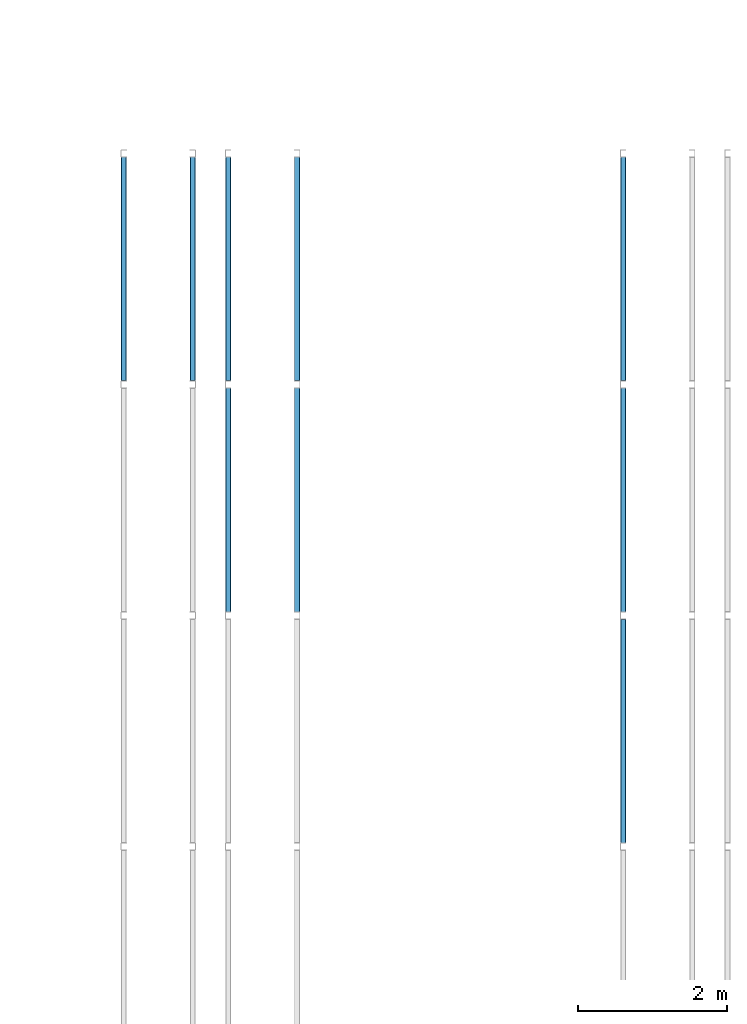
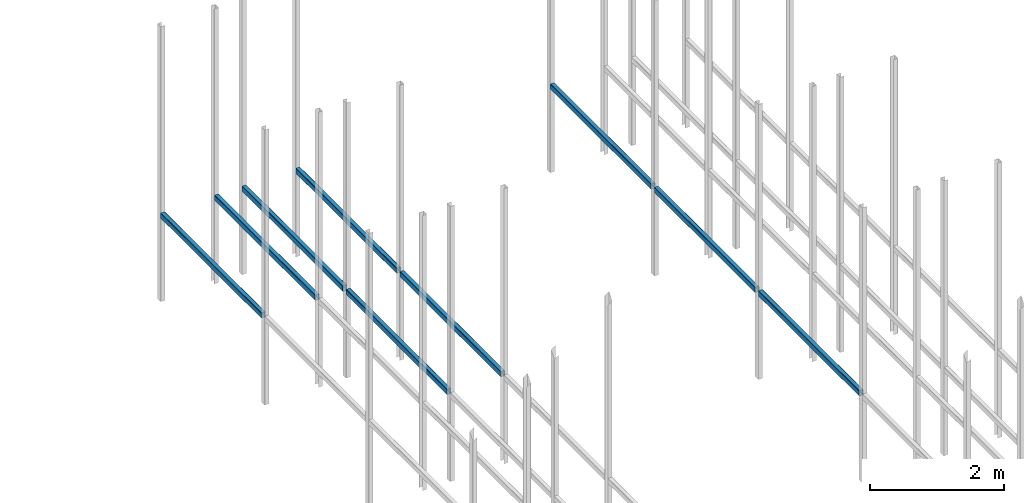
# One storey, part 189 of 302: 9 beams.
"""IFC2X3 building model written with IfcOpenShell, lengths in metres."""

from ifc_helpers import new_model, entity, si_unit, converted_unit, derived_unit, direction, frame, frame_2d, origin, place, context, subcontext, project, spatial, polyline, circle_curve, parameter, trimmed, segment, composite_curve, outline, extrude, material, type_object, element, save


model = new_model("IFC2X3")

# Units and contexts
model_context = context("Model", 3, precision=1e-05, world=origin(), true_north=direction((6.12303176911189e-17, 1.0)))
body_context = subcontext(model_context, "Body", "Model", "MODEL_VIEW")
ifc_project = project(units=[si_unit("LENGTHUNIT", "METRE"), si_unit("AREAUNIT", "SQUARE_METRE"), si_unit("VOLUMEUNIT", "CUBIC_METRE"), converted_unit("PLANEANGLEUNIT", "DEGREE", entity("IfcRatioMeasure", 0.0174532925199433), si_unit("PLANEANGLEUNIT", "RADIAN"), dimensions=[0, 0, 0, 0, 0, 0, 0]), si_unit("MASSUNIT", "GRAM", prefix="KILO"), derived_unit("MASSDENSITYUNIT", [(si_unit("MASSUNIT", "GRAM", prefix="KILO"), 1), (si_unit("LENGTHUNIT", "METRE"), -3)]), derived_unit("MOMENTOFINERTIAUNIT", [(si_unit("LENGTHUNIT", "METRE"), 4)]), si_unit("TIMEUNIT", "SECOND"), si_unit("FREQUENCYUNIT", "HERTZ"), si_unit("THERMODYNAMICTEMPERATUREUNIT", "DEGREE_CELSIUS"), derived_unit("THERMALTRANSMITTANCEUNIT", [(si_unit("MASSUNIT", "GRAM", prefix="KILO"), 1), (si_unit("THERMODYNAMICTEMPERATUREUNIT", "KELVIN"), -1), (si_unit("TIMEUNIT", "SECOND"), -3)]), derived_unit("VOLUMETRICFLOWRATEUNIT", [(si_unit("LENGTHUNIT", "METRE"), 3), (si_unit("TIMEUNIT", "SECOND"), -1)]), si_unit("ELECTRICCURRENTUNIT", "AMPERE"), si_unit("ELECTRICVOLTAGEUNIT", "VOLT"), si_unit("POWERUNIT", "WATT"), si_unit("FORCEUNIT", "NEWTON", prefix="KILO"), si_unit("ILLUMINANCEUNIT", "LUX"), si_unit("LUMINOUSFLUXUNIT", "LUMEN"), si_unit("LUMINOUSINTENSITYUNIT", "CANDELA"), derived_unit("USERDEFINED", [(si_unit("MASSUNIT", "GRAM", prefix="KILO"), -1), (si_unit("LENGTHUNIT", "METRE"), -2), (si_unit("TIMEUNIT", "SECOND"), 3), (si_unit("LUMINOUSFLUXUNIT", "LUMEN"), 1)]), derived_unit("LINEARVELOCITYUNIT", [(si_unit("LENGTHUNIT", "METRE"), 1), (si_unit("TIMEUNIT", "SECOND"), -1)]), si_unit("PRESSUREUNIT", "PASCAL"), derived_unit("USERDEFINED", [(si_unit("LENGTHUNIT", "METRE"), -2), (si_unit("MASSUNIT", "GRAM", prefix="KILO"), 1), (si_unit("TIMEUNIT", "SECOND"), -2)]), derived_unit("LINEARFORCEUNIT", [(si_unit("MASSUNIT", "GRAM", prefix="KILO"), 1), (si_unit("LENGTHUNIT", "METRE"), 1), (si_unit("TIMEUNIT", "SECOND"), -2), (si_unit("LENGTHUNIT", "METRE"), -1)]), derived_unit("PLANARFORCEUNIT", [(si_unit("MASSUNIT", "GRAM", prefix="KILO"), 1), (si_unit("LENGTHUNIT", "METRE"), 1), (si_unit("TIMEUNIT", "SECOND"), -2), (si_unit("LENGTHUNIT", "METRE"), -2)])], contexts=[model_context])

# Site, building, storey
site_placement = place(None, origin())
site = spatial("IfcSite", under=ifc_project, at=site_placement, Name="Default", CompositionType="ELEMENT")
building_placement = place(site_placement, origin())
building = spatial("IfcBuilding", under=site, at=building_placement, CompositionType="ELEMENT")
storey_placement = place(building_placement, frame((0.0, 0.0, -1.3)))
storey = spatial("IfcBuildingStorey", under=building, at=storey_placement, Name="00_EG", CompositionType="ELEMENT", Elevation=-1.3)

# Beams
ifc_material = material(Name="Metall - Baustahl S235 blau")
beam_type = type_object("IfcBeamType", Name="RHS Träger (EN 10219-2):RHS 100 x 75 x 5", PredefinedType="NOTDEFINED")
beam_1_placement = place(storey_placement, frame((-157.718311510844, 57.6480889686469, 2.885), z_axis=(0.0, 0.0, 1.0), x_axis=(0.0, 1.0, 0.0)))
element("IfcBeam", 1, at=beam_1_placement, inside=storey, type_object=beam_type, material=ifc_material, Name="RHS Träger (EN 10219-2):RHS 100 x 75 x 5", ObjectType="RHS Träger (EN 10219-2):RHS 100 x 75 x 5", context=body_context, shape_type="SweptSolid", body=[
    extrude(outline(composite_curve([segment(trimmed(circle_curve(frame_2d((-0.0274999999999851, -0.0400000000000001), x_axis=(1.0, 0.0)), 0.01), [parameter(180.0)], [parameter(270.0)], True, "PARAMETER"), True, "CONTINUOUS"), segment(polyline([(-0.0274999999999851, -0.05), (0.0274999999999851, -0.05)]), True, "CONTINUOUS"), segment(trimmed(circle_curve(frame_2d((0.0274999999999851, -0.0400000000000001), x_axis=(1.0, 0.0)), 0.01), [parameter(270.0)], [parameter(5.08888749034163e-14)], True, "PARAMETER"), True, "CONTINUOUS"), segment(polyline([(0.0375000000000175, -0.0399999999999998), (0.0375000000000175, 0.0400000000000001)]), True, "CONTINUOUS"), segment(trimmed(circle_curve(frame_2d((0.0274999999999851, 0.0399999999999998), x_axis=(1.0, 0.0)), 0.01), [parameter(360.0)], [parameter(89.9999999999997)], True, "PARAMETER"), True, "CONTINUOUS"), segment(polyline([(0.0274999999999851, 0.05), (-0.0274999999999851, 0.05)]), True, "CONTINUOUS"), segment(trimmed(circle_curve(frame_2d((-0.0274999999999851, 0.0399999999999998), x_axis=(1.0, 0.0)), 0.01), [parameter(90.0000000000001)], [parameter(180.0)], True, "PARAMETER"), True, "CONTINUOUS"), segment(polyline([(-0.0374999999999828, 0.0400000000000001), (-0.0374999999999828, -0.0399999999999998)]), True, "CONTINUOUS")], self_intersect=False), holes=[composite_curve([segment(polyline([(0.0274999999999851, -0.0450000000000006), (-0.0274999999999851, -0.0450000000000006)]), True, "CONTINUOUS"), segment(trimmed(circle_curve(frame_2d((-0.0274999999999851, -0.0400000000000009), x_axis=(1.0, 0.0)), 0.005), [parameter(180.0)], [parameter(270.0)], True, "PARAMETER"), False, "CONTINUOUS"), segment(polyline([(-0.0325000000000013, -0.0400000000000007), (-0.0325000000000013, 0.0399999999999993)]), True, "CONTINUOUS"), segment(trimmed(circle_curve(frame_2d((-0.0274999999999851, 0.039999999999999), x_axis=(1.0, 0.0)), 0.005), [parameter(90.0000000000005)], [parameter(180.0)], True, "PARAMETER"), False, "CONTINUOUS"), segment(polyline([(-0.0274999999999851, 0.0449999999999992), (0.0274999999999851, 0.0449999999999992)]), True, "CONTINUOUS"), segment(trimmed(circle_curve(frame_2d((0.0274999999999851, 0.039999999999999), x_axis=(1.0, 0.0)), 0.005), [parameter(0.0)], [parameter(90.0000000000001)], True, "PARAMETER"), False, "CONTINUOUS"), segment(polyline([(0.0325000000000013, 0.0399999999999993), (0.0325000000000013, -0.0400000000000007)]), True, "CONTINUOUS"), segment(trimmed(circle_curve(frame_2d((0.0274999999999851, -0.0400000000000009), x_axis=(1.0, 0.0)), 0.005), [parameter(270.0)], [parameter(4.07110999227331e-13)], True, "PARAMETER"), False, "CONTINUOUS")], self_intersect=False)]), frame((0.000100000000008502, 0.0375000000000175, -0.0500000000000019), z_axis=(1.0, 0.0, 0.0), x_axis=(0.0, -1.0, 0.0)), (0.0, 0.0, 1.0), 2.99979999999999),
])
beam_2_placement = place(storey_placement, frame((-156.868311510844, 57.6480889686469, 2.885), z_axis=(0.0, 0.0, 1.0), x_axis=(0.0, 1.0, 0.0)))
element("IfcBeam", 2, at=beam_2_placement, inside=storey, type_object=beam_type, material=ifc_material, Name="RHS Träger (EN 10219-2):RHS 100 x 75 x 5", ObjectType="RHS Träger (EN 10219-2):RHS 100 x 75 x 5", context=body_context, shape_type="SweptSolid", body=[
    extrude(outline(composite_curve([segment(polyline([(-0.0399999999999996, -0.0374999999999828), (0.0400000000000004, -0.0374999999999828)]), True, "CONTINUOUS"), segment(trimmed(circle_curve(frame_2d((0.0400000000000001, -0.0274999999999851), x_axis=(0.0, 1.0)), 0.01), [parameter(180.0)], [parameter(270.0)], True, "PARAMETER"), True, "CONTINUOUS"), segment(polyline([(0.0500000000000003, -0.0274999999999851), (0.0500000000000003, 0.0274999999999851)]), True, "CONTINUOUS"), segment(trimmed(circle_curve(frame_2d((0.0400000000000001, 0.0274999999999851), x_axis=(0.0, 1.0)), 0.01), [parameter(270.0)], [parameter(4.07110999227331e-13)], True, "PARAMETER"), True, "CONTINUOUS"), segment(polyline([(0.0400000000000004, 0.0375000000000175), (-0.0399999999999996, 0.0375000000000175)]), True, "CONTINUOUS"), segment(trimmed(circle_curve(frame_2d((-0.0399999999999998, 0.0274999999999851), x_axis=(0.0, 1.0)), 0.01), [parameter(360.0)], [parameter(90.0000000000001)], True, "PARAMETER"), True, "CONTINUOUS"), segment(polyline([(-0.0499999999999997, 0.0274999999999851), (-0.0499999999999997, -0.0274999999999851)]), True, "CONTINUOUS"), segment(trimmed(circle_curve(frame_2d((-0.0399999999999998, -0.0274999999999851), x_axis=(0.0, 1.0)), 0.01), [parameter(90.0000000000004)], [parameter(180.0)], True, "PARAMETER"), True, "CONTINUOUS")], self_intersect=False), holes=[composite_curve([segment(trimmed(circle_curve(frame_2d((-0.0400000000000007, 0.0274999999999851), x_axis=(0.0, 1.0)), 0.005), [parameter(360.0)], [parameter(89.9999999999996)], True, "PARAMETER"), False, "CONTINUOUS"), segment(polyline([(-0.0400000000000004, 0.0325000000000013), (0.0399999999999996, 0.0325000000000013)]), True, "CONTINUOUS"), segment(trimmed(circle_curve(frame_2d((0.0399999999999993, 0.0274999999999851), x_axis=(0.0, 1.0)), 0.005), [parameter(270.0)], [parameter(0.0)], True, "PARAMETER"), False, "CONTINUOUS"), segment(polyline([(0.0449999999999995, 0.0274999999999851), (0.0449999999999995, -0.0274999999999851)]), True, "CONTINUOUS"), segment(trimmed(circle_curve(frame_2d((0.0399999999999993, -0.0274999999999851), x_axis=(0.0, 1.0)), 0.005), [parameter(180.0)], [parameter(269.999999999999)], True, "PARAMETER"), False, "CONTINUOUS"), segment(polyline([(0.0399999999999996, -0.0325000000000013), (-0.0400000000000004, -0.0325000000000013)]), True, "CONTINUOUS"), segment(trimmed(circle_curve(frame_2d((-0.0400000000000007, -0.0274999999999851), x_axis=(0.0, 1.0)), 0.005), [parameter(90.0000000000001)], [parameter(180.0)], True, "PARAMETER"), False, "CONTINUOUS"), segment(polyline([(-0.0450000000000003, -0.0274999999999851), (-0.0450000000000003, 0.0274999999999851)]), True, "CONTINUOUS")], self_intersect=False)]), frame((0.000100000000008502, -0.0375000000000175, -0.0500000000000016), z_axis=(1.0, 0.0, 0.0), x_axis=(0.0, 0.0, -1.0)), (0.0, 0.0, 1.0), 2.99979999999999),
])
beam_3_placement = place(storey_placement, frame((-159.118311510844, 60.7480889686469, 2.885), z_axis=(0.0, 0.0, 1.0), x_axis=(0.0, 1.0, 0.0)))
element("IfcBeam", 3, at=beam_3_placement, inside=storey, type_object=beam_type, material=ifc_material, Name="RHS Träger (EN 10219-2):RHS 100 x 75 x 5", ObjectType="RHS Träger (EN 10219-2):RHS 100 x 75 x 5", context=body_context, shape_type="SweptSolid", body=[
    extrude(outline(composite_curve([segment(trimmed(circle_curve(frame_2d((-0.0274999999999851, -0.0400000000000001), x_axis=(1.0, 0.0)), 0.01), [parameter(180.0)], [parameter(270.0)], True, "PARAMETER"), True, "CONTINUOUS"), segment(polyline([(-0.0274999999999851, -0.05), (0.0274999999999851, -0.05)]), True, "CONTINUOUS"), segment(trimmed(circle_curve(frame_2d((0.0274999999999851, -0.0400000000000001), x_axis=(1.0, 0.0)), 0.01), [parameter(270.0)], [parameter(5.08888749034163e-14)], True, "PARAMETER"), True, "CONTINUOUS"), segment(polyline([(0.0375000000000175, -0.0399999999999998), (0.0375000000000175, 0.0400000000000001)]), True, "CONTINUOUS"), segment(trimmed(circle_curve(frame_2d((0.0274999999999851, 0.0399999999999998), x_axis=(1.0, 0.0)), 0.01), [parameter(360.0)], [parameter(89.9999999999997)], True, "PARAMETER"), True, "CONTINUOUS"), segment(polyline([(0.0274999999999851, 0.05), (-0.0274999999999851, 0.05)]), True, "CONTINUOUS"), segment(trimmed(circle_curve(frame_2d((-0.0274999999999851, 0.0399999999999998), x_axis=(1.0, 0.0)), 0.01), [parameter(90.0000000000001)], [parameter(180.0)], True, "PARAMETER"), True, "CONTINUOUS"), segment(polyline([(-0.0374999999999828, 0.0400000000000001), (-0.0374999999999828, -0.0399999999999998)]), True, "CONTINUOUS")], self_intersect=False), holes=[composite_curve([segment(polyline([(0.0274999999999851, -0.0450000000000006), (-0.0274999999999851, -0.0450000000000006)]), True, "CONTINUOUS"), segment(trimmed(circle_curve(frame_2d((-0.0274999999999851, -0.0400000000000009), x_axis=(1.0, 0.0)), 0.005), [parameter(180.0)], [parameter(270.0)], True, "PARAMETER"), False, "CONTINUOUS"), segment(polyline([(-0.0325000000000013, -0.0400000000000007), (-0.0325000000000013, 0.0399999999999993)]), True, "CONTINUOUS"), segment(trimmed(circle_curve(frame_2d((-0.0274999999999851, 0.039999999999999), x_axis=(1.0, 0.0)), 0.005), [parameter(90.0000000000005)], [parameter(180.0)], True, "PARAMETER"), False, "CONTINUOUS"), segment(polyline([(-0.0274999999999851, 0.0449999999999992), (0.0274999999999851, 0.0449999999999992)]), True, "CONTINUOUS"), segment(trimmed(circle_curve(frame_2d((0.0274999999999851, 0.039999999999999), x_axis=(1.0, 0.0)), 0.005), [parameter(0.0)], [parameter(90.0000000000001)], True, "PARAMETER"), False, "CONTINUOUS"), segment(polyline([(0.0325000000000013, 0.0399999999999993), (0.0325000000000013, -0.0400000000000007)]), True, "CONTINUOUS"), segment(trimmed(circle_curve(frame_2d((0.0274999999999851, -0.0400000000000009), x_axis=(1.0, 0.0)), 0.005), [parameter(270.0)], [parameter(4.07110999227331e-13)], True, "PARAMETER"), False, "CONTINUOUS")], self_intersect=False)]), frame((0.000100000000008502, 0.0375000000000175, -0.0500000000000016), z_axis=(1.0, 0.0, 0.0), x_axis=(0.0, -1.0, 0.0)), (0.0, 0.0, 1.0), 2.99979999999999),
])
beam_4_placement = place(storey_placement, frame((-158.268311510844, 60.7480889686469, 2.885), z_axis=(0.0, 0.0, 1.0), x_axis=(0.0, 1.0, 0.0)))
element("IfcBeam", 4, at=beam_4_placement, inside=storey, type_object=beam_type, material=ifc_material, Name="RHS Träger (EN 10219-2):RHS 100 x 75 x 5", ObjectType="RHS Träger (EN 10219-2):RHS 100 x 75 x 5", context=body_context, shape_type="SweptSolid", body=[
    extrude(outline(composite_curve([segment(polyline([(-0.0399999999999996, -0.0375000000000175), (0.0400000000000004, -0.0375000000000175)]), True, "CONTINUOUS"), segment(trimmed(circle_curve(frame_2d((0.0400000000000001, -0.0275000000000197), x_axis=(0.0, 1.0)), 0.01), [parameter(180.0)], [parameter(270.0)], True, "PARAMETER"), True, "CONTINUOUS"), segment(polyline([(0.0500000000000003, -0.0275000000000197), (0.0500000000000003, 0.0274999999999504)]), True, "CONTINUOUS"), segment(trimmed(circle_curve(frame_2d((0.0400000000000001, 0.0274999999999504), x_axis=(0.0, 1.0)), 0.01), [parameter(270.0)], [parameter(4.07110999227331e-13)], True, "PARAMETER"), True, "CONTINUOUS"), segment(polyline([(0.0400000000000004, 0.0374999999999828), (-0.0399999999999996, 0.0374999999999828)]), True, "CONTINUOUS"), segment(trimmed(circle_curve(frame_2d((-0.0399999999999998, 0.0274999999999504), x_axis=(0.0, 1.0)), 0.01), [parameter(360.0)], [parameter(90.0000000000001)], True, "PARAMETER"), True, "CONTINUOUS"), segment(polyline([(-0.0499999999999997, 0.0274999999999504), (-0.0499999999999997, -0.0275000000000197)]), True, "CONTINUOUS"), segment(trimmed(circle_curve(frame_2d((-0.0399999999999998, -0.0275000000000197), x_axis=(0.0, 1.0)), 0.01), [parameter(90.0000000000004)], [parameter(180.0)], True, "PARAMETER"), True, "CONTINUOUS")], self_intersect=False), holes=[composite_curve([segment(trimmed(circle_curve(frame_2d((-0.0400000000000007, 0.0274999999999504), x_axis=(0.0, 1.0)), 0.005), [parameter(360.0)], [parameter(89.9999999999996)], True, "PARAMETER"), False, "CONTINUOUS"), segment(polyline([(-0.0400000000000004, 0.0324999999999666), (0.0399999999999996, 0.0324999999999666)]), True, "CONTINUOUS"), segment(trimmed(circle_curve(frame_2d((0.0399999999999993, 0.0274999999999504), x_axis=(0.0, 1.0)), 0.005), [parameter(270.0)], [parameter(0.0)], True, "PARAMETER"), False, "CONTINUOUS"), segment(polyline([(0.0449999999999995, 0.0274999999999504), (0.0449999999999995, -0.0275000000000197)]), True, "CONTINUOUS"), segment(trimmed(circle_curve(frame_2d((0.0399999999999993, -0.0275000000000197), x_axis=(0.0, 1.0)), 0.005), [parameter(180.0)], [parameter(269.999999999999)], True, "PARAMETER"), False, "CONTINUOUS"), segment(polyline([(0.0399999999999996, -0.0325000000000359), (-0.0400000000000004, -0.0325000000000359)]), True, "CONTINUOUS"), segment(trimmed(circle_curve(frame_2d((-0.0400000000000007, -0.0275000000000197), x_axis=(0.0, 1.0)), 0.005), [parameter(90.0000000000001)], [parameter(180.0)], True, "PARAMETER"), False, "CONTINUOUS"), segment(polyline([(-0.0450000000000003, -0.0275000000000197), (-0.0450000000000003, 0.0274999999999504)]), True, "CONTINUOUS")], self_intersect=False)]), frame((0.000100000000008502, -0.0374999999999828, -0.0500000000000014), z_axis=(1.0, 0.0, 0.0), x_axis=(0.0, 0.0, -1.0)), (0.0, 0.0, 1.0), 2.99979999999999),
])
beam_5_placement = place(storey_placement, frame((-157.718311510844, 60.7480889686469, 2.885), z_axis=(0.0, 0.0, 1.0), x_axis=(0.0, 1.0, 0.0)))
element("IfcBeam", 5, at=beam_5_placement, inside=storey, type_object=beam_type, material=ifc_material, Name="RHS Träger (EN 10219-2):RHS 100 x 75 x 5", ObjectType="RHS Träger (EN 10219-2):RHS 100 x 75 x 5", context=body_context, shape_type="SweptSolid", body=[
    extrude(outline(composite_curve([segment(trimmed(circle_curve(frame_2d((-0.0274999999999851, -0.0400000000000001), x_axis=(1.0, 0.0)), 0.01), [parameter(180.0)], [parameter(270.0)], True, "PARAMETER"), True, "CONTINUOUS"), segment(polyline([(-0.0274999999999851, -0.05), (0.0274999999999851, -0.05)]), True, "CONTINUOUS"), segment(trimmed(circle_curve(frame_2d((0.0274999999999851, -0.0400000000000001), x_axis=(1.0, 0.0)), 0.01), [parameter(270.0)], [parameter(5.08888749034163e-14)], True, "PARAMETER"), True, "CONTINUOUS"), segment(polyline([(0.0375000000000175, -0.0399999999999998), (0.0375000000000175, 0.0400000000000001)]), True, "CONTINUOUS"), segment(trimmed(circle_curve(frame_2d((0.0274999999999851, 0.0399999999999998), x_axis=(1.0, 0.0)), 0.01), [parameter(360.0)], [parameter(89.9999999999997)], True, "PARAMETER"), True, "CONTINUOUS"), segment(polyline([(0.0274999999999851, 0.05), (-0.0274999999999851, 0.05)]), True, "CONTINUOUS"), segment(trimmed(circle_curve(frame_2d((-0.0274999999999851, 0.0399999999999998), x_axis=(1.0, 0.0)), 0.01), [parameter(90.0000000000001)], [parameter(180.0)], True, "PARAMETER"), True, "CONTINUOUS"), segment(polyline([(-0.0374999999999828, 0.0400000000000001), (-0.0374999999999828, -0.0399999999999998)]), True, "CONTINUOUS")], self_intersect=False), holes=[composite_curve([segment(polyline([(0.0274999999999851, -0.0450000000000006), (-0.0274999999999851, -0.0450000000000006)]), True, "CONTINUOUS"), segment(trimmed(circle_curve(frame_2d((-0.0274999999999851, -0.0400000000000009), x_axis=(1.0, 0.0)), 0.005), [parameter(180.0)], [parameter(270.0)], True, "PARAMETER"), False, "CONTINUOUS"), segment(polyline([(-0.0325000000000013, -0.0400000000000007), (-0.0325000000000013, 0.0399999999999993)]), True, "CONTINUOUS"), segment(trimmed(circle_curve(frame_2d((-0.0274999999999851, 0.039999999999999), x_axis=(1.0, 0.0)), 0.005), [parameter(90.0000000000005)], [parameter(180.0)], True, "PARAMETER"), False, "CONTINUOUS"), segment(polyline([(-0.0274999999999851, 0.0449999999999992), (0.0274999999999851, 0.0449999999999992)]), True, "CONTINUOUS"), segment(trimmed(circle_curve(frame_2d((0.0274999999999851, 0.039999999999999), x_axis=(1.0, 0.0)), 0.005), [parameter(0.0)], [parameter(90.0000000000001)], True, "PARAMETER"), False, "CONTINUOUS"), segment(polyline([(0.0325000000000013, 0.0399999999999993), (0.0325000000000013, -0.0400000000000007)]), True, "CONTINUOUS"), segment(trimmed(circle_curve(frame_2d((0.0274999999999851, -0.0400000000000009), x_axis=(1.0, 0.0)), 0.005), [parameter(270.0)], [parameter(4.07110999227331e-13)], True, "PARAMETER"), False, "CONTINUOUS")], self_intersect=False)]), frame((0.000100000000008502, 0.0375000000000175, -0.0500000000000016), z_axis=(1.0, 0.0, 0.0), x_axis=(0.0, -1.0, 0.0)), (0.0, 0.0, 1.0), 2.99979999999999),
])
beam_6_placement = place(storey_placement, frame((-156.868311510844, 60.7480889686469, 2.885), z_axis=(0.0, 0.0, 1.0), x_axis=(0.0, 1.0, 0.0)))
element("IfcBeam", 6, at=beam_6_placement, inside=storey, type_object=beam_type, material=ifc_material, Name="RHS Träger (EN 10219-2):RHS 100 x 75 x 5", ObjectType="RHS Träger (EN 10219-2):RHS 100 x 75 x 5", context=body_context, shape_type="SweptSolid", body=[
    extrude(outline(composite_curve([segment(polyline([(-0.0399999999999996, -0.0374999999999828), (0.0400000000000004, -0.0374999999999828)]), True, "CONTINUOUS"), segment(trimmed(circle_curve(frame_2d((0.0400000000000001, -0.0274999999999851), x_axis=(0.0, 1.0)), 0.01), [parameter(180.0)], [parameter(270.0)], True, "PARAMETER"), True, "CONTINUOUS"), segment(polyline([(0.0500000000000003, -0.0274999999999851), (0.0500000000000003, 0.0274999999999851)]), True, "CONTINUOUS"), segment(trimmed(circle_curve(frame_2d((0.0400000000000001, 0.0274999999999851), x_axis=(0.0, 1.0)), 0.01), [parameter(270.0)], [parameter(4.07110999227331e-13)], True, "PARAMETER"), True, "CONTINUOUS"), segment(polyline([(0.0400000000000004, 0.0375000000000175), (-0.0399999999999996, 0.0375000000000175)]), True, "CONTINUOUS"), segment(trimmed(circle_curve(frame_2d((-0.0399999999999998, 0.0274999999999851), x_axis=(0.0, 1.0)), 0.01), [parameter(360.0)], [parameter(90.0000000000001)], True, "PARAMETER"), True, "CONTINUOUS"), segment(polyline([(-0.0499999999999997, 0.0274999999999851), (-0.0499999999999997, -0.0274999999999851)]), True, "CONTINUOUS"), segment(trimmed(circle_curve(frame_2d((-0.0399999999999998, -0.0274999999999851), x_axis=(0.0, 1.0)), 0.01), [parameter(90.0000000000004)], [parameter(180.0)], True, "PARAMETER"), True, "CONTINUOUS")], self_intersect=False), holes=[composite_curve([segment(trimmed(circle_curve(frame_2d((-0.0400000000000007, 0.0274999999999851), x_axis=(0.0, 1.0)), 0.005), [parameter(360.0)], [parameter(89.9999999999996)], True, "PARAMETER"), False, "CONTINUOUS"), segment(polyline([(-0.0400000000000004, 0.0325000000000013), (0.0399999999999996, 0.0325000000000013)]), True, "CONTINUOUS"), segment(trimmed(circle_curve(frame_2d((0.0399999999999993, 0.0274999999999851), x_axis=(0.0, 1.0)), 0.005), [parameter(270.0)], [parameter(0.0)], True, "PARAMETER"), False, "CONTINUOUS"), segment(polyline([(0.0449999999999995, 0.0274999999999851), (0.0449999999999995, -0.0274999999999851)]), True, "CONTINUOUS"), segment(trimmed(circle_curve(frame_2d((0.0399999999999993, -0.0274999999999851), x_axis=(0.0, 1.0)), 0.005), [parameter(180.0)], [parameter(269.999999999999)], True, "PARAMETER"), False, "CONTINUOUS"), segment(polyline([(0.0399999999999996, -0.0325000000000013), (-0.0400000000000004, -0.0325000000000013)]), True, "CONTINUOUS"), segment(trimmed(circle_curve(frame_2d((-0.0400000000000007, -0.0274999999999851), x_axis=(0.0, 1.0)), 0.005), [parameter(90.0000000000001)], [parameter(180.0)], True, "PARAMETER"), False, "CONTINUOUS"), segment(polyline([(-0.0450000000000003, -0.0274999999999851), (-0.0450000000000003, 0.0274999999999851)]), True, "CONTINUOUS")], self_intersect=False)]), frame((0.000100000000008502, -0.0375000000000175, -0.0500000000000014), z_axis=(1.0, 0.0, 0.0), x_axis=(0.0, 0.0, -1.0)), (0.0, 0.0, 1.0), 2.99979999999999),
])
beam_7_placement = place(storey_placement, frame((-152.418311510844, 54.5480889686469, 2.885), z_axis=(0.0, 0.0, 1.0), x_axis=(0.0, 1.0, 0.0)))
element("IfcBeam", 7, at=beam_7_placement, inside=storey, type_object=beam_type, material=ifc_material, Name="RHS Träger (EN 10219-2):RHS 100 x 75 x 5", ObjectType="RHS Träger (EN 10219-2):RHS 100 x 75 x 5", context=body_context, shape_type="SweptSolid", body=[
    extrude(outline(composite_curve([segment(trimmed(circle_curve(frame_2d((-0.0275000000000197, -0.0400000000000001), x_axis=(1.0, 0.0)), 0.01), [parameter(180.0)], [parameter(270.0)], True, "PARAMETER"), True, "CONTINUOUS"), segment(polyline([(-0.0275000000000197, -0.05), (0.0274999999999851, -0.05)]), True, "CONTINUOUS"), segment(trimmed(circle_curve(frame_2d((0.0274999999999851, -0.0400000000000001), x_axis=(1.0, 0.0)), 0.01), [parameter(270.0)], [parameter(5.08888749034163e-14)], True, "PARAMETER"), True, "CONTINUOUS"), segment(polyline([(0.0374999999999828, -0.0399999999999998), (0.0374999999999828, 0.0400000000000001)]), True, "CONTINUOUS"), segment(trimmed(circle_curve(frame_2d((0.0274999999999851, 0.0399999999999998), x_axis=(1.0, 0.0)), 0.01), [parameter(360.0)], [parameter(89.9999999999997)], True, "PARAMETER"), True, "CONTINUOUS"), segment(polyline([(0.0274999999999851, 0.05), (-0.0275000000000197, 0.05)]), True, "CONTINUOUS"), segment(trimmed(circle_curve(frame_2d((-0.0275000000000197, 0.0399999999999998), x_axis=(1.0, 0.0)), 0.01), [parameter(90.0000000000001)], [parameter(180.0)], True, "PARAMETER"), True, "CONTINUOUS"), segment(polyline([(-0.0375000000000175, 0.0400000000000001), (-0.0375000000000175, -0.0399999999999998)]), True, "CONTINUOUS")], self_intersect=False), holes=[composite_curve([segment(polyline([(0.0274999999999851, -0.0450000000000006), (-0.0275000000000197, -0.0450000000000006)]), True, "CONTINUOUS"), segment(trimmed(circle_curve(frame_2d((-0.0275000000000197, -0.0400000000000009), x_axis=(1.0, 0.0)), 0.005), [parameter(180.0)], [parameter(270.0)], True, "PARAMETER"), False, "CONTINUOUS"), segment(polyline([(-0.0325000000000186, -0.0400000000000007), (-0.0325000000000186, 0.0399999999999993)]), True, "CONTINUOUS"), segment(trimmed(circle_curve(frame_2d((-0.0275000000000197, 0.039999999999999), x_axis=(1.0, 0.0)), 0.005), [parameter(90.0000000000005)], [parameter(180.0)], True, "PARAMETER"), False, "CONTINUOUS"), segment(polyline([(-0.0275000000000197, 0.0449999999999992), (0.0274999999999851, 0.0449999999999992)]), True, "CONTINUOUS"), segment(trimmed(circle_curve(frame_2d((0.0274999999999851, 0.039999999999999), x_axis=(1.0, 0.0)), 0.005), [parameter(0.0)], [parameter(90.0000000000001)], True, "PARAMETER"), False, "CONTINUOUS"), segment(polyline([(0.0324999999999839, 0.0399999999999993), (0.0324999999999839, -0.0400000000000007)]), True, "CONTINUOUS"), segment(trimmed(circle_curve(frame_2d((0.0274999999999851, -0.0400000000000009), x_axis=(1.0, 0.0)), 0.005), [parameter(270.0)], [parameter(4.07110999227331e-13)], True, "PARAMETER"), False, "CONTINUOUS")], self_intersect=False)]), frame((9.99999999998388e-05, 0.0374999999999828, -0.0500000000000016), z_axis=(1.0, 0.0, 0.0), x_axis=(0.0, -1.0, 0.0)), (0.0, 0.0, 1.0), 2.99979999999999),
])
beam_8_placement = place(storey_placement, frame((-152.418311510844, 57.6480889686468, 2.885), z_axis=(0.0, 0.0, 1.0), x_axis=(0.0, 1.0, 0.0)))
element("IfcBeam", 8, at=beam_8_placement, inside=storey, type_object=beam_type, material=ifc_material, Name="RHS Träger (EN 10219-2):RHS 100 x 75 x 5", ObjectType="RHS Träger (EN 10219-2):RHS 100 x 75 x 5", context=body_context, shape_type="SweptSolid", body=[
    extrude(outline(composite_curve([segment(trimmed(circle_curve(frame_2d((-0.0275000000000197, -0.0400000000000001), x_axis=(1.0, 0.0)), 0.01), [parameter(180.0)], [parameter(270.0)], True, "PARAMETER"), True, "CONTINUOUS"), segment(polyline([(-0.0275000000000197, -0.05), (0.0274999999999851, -0.05)]), True, "CONTINUOUS"), segment(trimmed(circle_curve(frame_2d((0.0274999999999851, -0.0400000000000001), x_axis=(1.0, 0.0)), 0.01), [parameter(270.0)], [parameter(5.08888749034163e-14)], True, "PARAMETER"), True, "CONTINUOUS"), segment(polyline([(0.0374999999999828, -0.0399999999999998), (0.0374999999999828, 0.0400000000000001)]), True, "CONTINUOUS"), segment(trimmed(circle_curve(frame_2d((0.0274999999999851, 0.0399999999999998), x_axis=(1.0, 0.0)), 0.01), [parameter(360.0)], [parameter(89.9999999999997)], True, "PARAMETER"), True, "CONTINUOUS"), segment(polyline([(0.0274999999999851, 0.05), (-0.0275000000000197, 0.05)]), True, "CONTINUOUS"), segment(trimmed(circle_curve(frame_2d((-0.0275000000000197, 0.0399999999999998), x_axis=(1.0, 0.0)), 0.01), [parameter(90.0000000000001)], [parameter(180.0)], True, "PARAMETER"), True, "CONTINUOUS"), segment(polyline([(-0.0375000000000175, 0.0400000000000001), (-0.0375000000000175, -0.0399999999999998)]), True, "CONTINUOUS")], self_intersect=False), holes=[composite_curve([segment(polyline([(0.0274999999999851, -0.0450000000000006), (-0.0275000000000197, -0.0450000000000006)]), True, "CONTINUOUS"), segment(trimmed(circle_curve(frame_2d((-0.0275000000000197, -0.0400000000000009), x_axis=(1.0, 0.0)), 0.005), [parameter(180.0)], [parameter(270.0)], True, "PARAMETER"), False, "CONTINUOUS"), segment(polyline([(-0.0325000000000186, -0.0400000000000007), (-0.0325000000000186, 0.0399999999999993)]), True, "CONTINUOUS"), segment(trimmed(circle_curve(frame_2d((-0.0275000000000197, 0.039999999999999), x_axis=(1.0, 0.0)), 0.005), [parameter(90.0000000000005)], [parameter(180.0)], True, "PARAMETER"), False, "CONTINUOUS"), segment(polyline([(-0.0275000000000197, 0.0449999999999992), (0.0274999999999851, 0.0449999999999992)]), True, "CONTINUOUS"), segment(trimmed(circle_curve(frame_2d((0.0274999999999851, 0.039999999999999), x_axis=(1.0, 0.0)), 0.005), [parameter(0.0)], [parameter(90.0000000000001)], True, "PARAMETER"), False, "CONTINUOUS"), segment(polyline([(0.0324999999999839, 0.0399999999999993), (0.0324999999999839, -0.0400000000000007)]), True, "CONTINUOUS"), segment(trimmed(circle_curve(frame_2d((0.0274999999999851, -0.0400000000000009), x_axis=(1.0, 0.0)), 0.005), [parameter(270.0)], [parameter(4.07110999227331e-13)], True, "PARAMETER"), False, "CONTINUOUS")], self_intersect=False)]), frame((9.99999999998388e-05, 0.0374999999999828, -0.0500000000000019), z_axis=(1.0, 0.0, 0.0), x_axis=(0.0, -1.0, 0.0)), (0.0, 0.0, 1.0), 2.99979999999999),
])
beam_9_placement = place(storey_placement, frame((-152.418311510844, 60.7480889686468, 2.885), z_axis=(0.0, 0.0, 1.0), x_axis=(0.0, 1.0, 0.0)))
element("IfcBeam", 9, at=beam_9_placement, inside=storey, type_object=beam_type, material=ifc_material, Name="RHS Träger (EN 10219-2):RHS 100 x 75 x 5", ObjectType="RHS Träger (EN 10219-2):RHS 100 x 75 x 5", context=body_context, shape_type="SweptSolid", body=[
    extrude(outline(composite_curve([segment(trimmed(circle_curve(frame_2d((-0.0275000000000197, -0.0400000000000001), x_axis=(1.0, 0.0)), 0.01), [parameter(180.0)], [parameter(270.0)], True, "PARAMETER"), True, "CONTINUOUS"), segment(polyline([(-0.0275000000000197, -0.05), (0.0274999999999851, -0.05)]), True, "CONTINUOUS"), segment(trimmed(circle_curve(frame_2d((0.0274999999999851, -0.0400000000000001), x_axis=(1.0, 0.0)), 0.01), [parameter(270.0)], [parameter(5.08888749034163e-14)], True, "PARAMETER"), True, "CONTINUOUS"), segment(polyline([(0.0374999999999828, -0.0399999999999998), (0.0374999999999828, 0.0400000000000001)]), True, "CONTINUOUS"), segment(trimmed(circle_curve(frame_2d((0.0274999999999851, 0.0399999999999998), x_axis=(1.0, 0.0)), 0.01), [parameter(360.0)], [parameter(89.9999999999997)], True, "PARAMETER"), True, "CONTINUOUS"), segment(polyline([(0.0274999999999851, 0.05), (-0.0275000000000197, 0.05)]), True, "CONTINUOUS"), segment(trimmed(circle_curve(frame_2d((-0.0275000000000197, 0.0399999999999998), x_axis=(1.0, 0.0)), 0.01), [parameter(90.0000000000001)], [parameter(180.0)], True, "PARAMETER"), True, "CONTINUOUS"), segment(polyline([(-0.0375000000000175, 0.0400000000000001), (-0.0375000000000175, -0.0399999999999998)]), True, "CONTINUOUS")], self_intersect=False), holes=[composite_curve([segment(polyline([(0.0274999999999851, -0.0450000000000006), (-0.0275000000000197, -0.0450000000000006)]), True, "CONTINUOUS"), segment(trimmed(circle_curve(frame_2d((-0.0275000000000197, -0.0400000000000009), x_axis=(1.0, 0.0)), 0.005), [parameter(180.0)], [parameter(270.0)], True, "PARAMETER"), False, "CONTINUOUS"), segment(polyline([(-0.0325000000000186, -0.0400000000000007), (-0.0325000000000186, 0.0399999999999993)]), True, "CONTINUOUS"), segment(trimmed(circle_curve(frame_2d((-0.0275000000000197, 0.039999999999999), x_axis=(1.0, 0.0)), 0.005), [parameter(90.0000000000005)], [parameter(180.0)], True, "PARAMETER"), False, "CONTINUOUS"), segment(polyline([(-0.0275000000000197, 0.0449999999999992), (0.0274999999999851, 0.0449999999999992)]), True, "CONTINUOUS"), segment(trimmed(circle_curve(frame_2d((0.0274999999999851, 0.039999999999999), x_axis=(1.0, 0.0)), 0.005), [parameter(0.0)], [parameter(90.0000000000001)], True, "PARAMETER"), False, "CONTINUOUS"), segment(polyline([(0.0324999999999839, 0.0399999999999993), (0.0324999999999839, -0.0400000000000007)]), True, "CONTINUOUS"), segment(trimmed(circle_curve(frame_2d((0.0274999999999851, -0.0400000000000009), x_axis=(1.0, 0.0)), 0.005), [parameter(270.0)], [parameter(4.07110999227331e-13)], True, "PARAMETER"), False, "CONTINUOUS")], self_intersect=False)]), frame((0.000100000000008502, 0.0374999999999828, -0.0500000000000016), z_axis=(1.0, 0.0, 0.0), x_axis=(0.0, -1.0, 0.0)), (0.0, 0.0, 1.0), 2.99979999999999),
])

save(model, "model.ifc")
